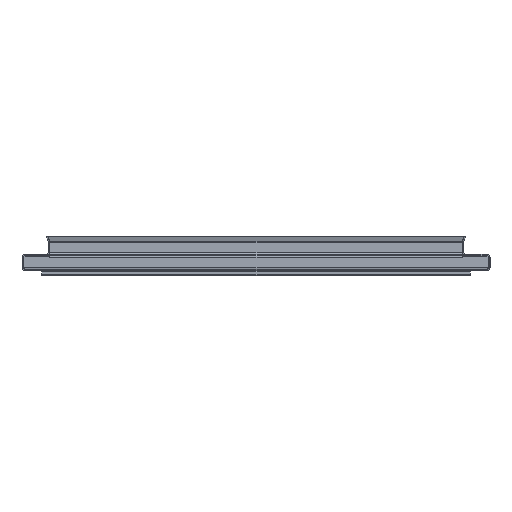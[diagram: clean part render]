
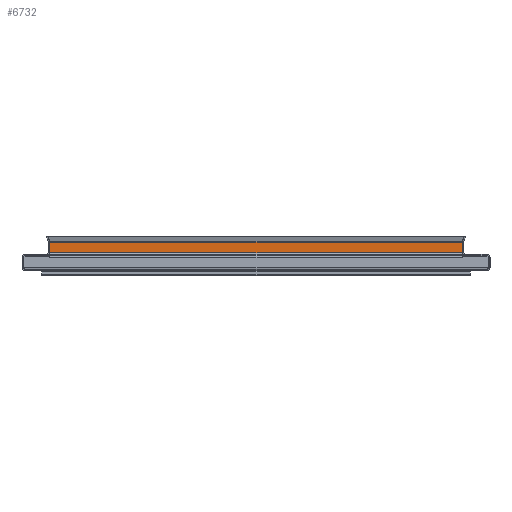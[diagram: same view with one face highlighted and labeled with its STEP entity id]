
A CAD part, left-side view. The second image highlights one B-rep face of the part: STEP entity #6732.
In plain terms, the highlighted planar face has unit normal (-1, 0, 0).
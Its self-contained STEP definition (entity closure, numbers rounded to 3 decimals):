
#17 = DIRECTION ( 'NONE',  ( -1., 0., 0. ) ) ;
#99 = ORIENTED_EDGE ( 'NONE', *, *, #12218, .F. ) ;
#387 = ORIENTED_EDGE ( 'NONE', *, *, #12524, .F. ) ;
#521 = FACE_OUTER_BOUND ( 'NONE', #10241, .T. ) ;
#826 = ORIENTED_EDGE ( 'NONE', *, *, #5574, .F. ) ;
#835 = LINE ( 'NONE', #8951, #6008 ) ;
#1542 = LINE ( 'NONE', #12094, #3788 ) ;
#1627 = CARTESIAN_POINT ( 'NONE',  ( -978.082, -266.224, 23.296 ) ) ;
#1958 = VERTEX_POINT ( 'NONE', #1627 ) ;
#2511 = CARTESIAN_POINT ( 'NONE',  ( -978.082, 266.224, 23.296 ) ) ;
#3103 = DIRECTION ( 'NONE',  ( 0., 1., 0. ) ) ;
#3563 = VECTOR ( 'NONE', #8521, 1000. ) ;
#3598 = VECTOR ( 'NONE', #6269, 1000. ) ;
#3788 = VECTOR ( 'NONE', #11104, 1000. ) ;
#5574 = EDGE_CURVE ( 'NONE', #12353, #10487, #1542, .T. ) ;
#5828 = CARTESIAN_POINT ( 'NONE',  ( -978.082, -266.224, 37.407 ) ) ;
#6000 = CARTESIAN_POINT ( 'NONE',  ( -978.082, -266.224, 37.085 ) ) ;
#6008 = VECTOR ( 'NONE', #3103, 1000. ) ;
#6269 = DIRECTION ( 'NONE',  ( 0., 0., -1. ) ) ;
#6336 = VERTEX_POINT ( 'NONE', #2511 ) ;
#6732 = ADVANCED_FACE ( 'NONE', ( #521 ), #10611, .T. ) ;
#6805 = DIRECTION ( 'NONE',  ( 0., 0., 1. ) ) ;
#7462 = AXIS2_PLACEMENT_3D ( 'NONE', #5828, #17, #6805 ) ;
#8391 = ORIENTED_EDGE ( 'NONE', *, *, #10821, .F. ) ;
#8486 = LINE ( 'NONE', #11087, #3598 ) ;
#8521 = DIRECTION ( 'NONE',  ( 0., 0., 1. ) ) ;
#8774 = LINE ( 'NONE', #12403, #3563 ) ;
#8951 = CARTESIAN_POINT ( 'NONE',  ( -978.082, -266.224, 23.296 ) ) ;
#10241 = EDGE_LOOP ( 'NONE', ( #8391, #826, #99, #387 ) ) ;
#10487 = VERTEX_POINT ( 'NONE', #6000 ) ;
#10611 = PLANE ( 'NONE',  #7462 ) ;
#10821 = EDGE_CURVE ( 'NONE', #10487, #1958, #8486, .T. ) ;
#11087 = CARTESIAN_POINT ( 'NONE',  ( -978.082, -266.224, 21.264 ) ) ;
#11104 = DIRECTION ( 'NONE',  ( 0., -1., 0. ) ) ;
#12094 = CARTESIAN_POINT ( 'NONE',  ( -978.082, 266.322, 37.085 ) ) ;
#12218 = EDGE_CURVE ( 'NONE', #6336, #12353, #8774, .T. ) ;
#12353 = VERTEX_POINT ( 'NONE', #12574 ) ;
#12403 = CARTESIAN_POINT ( 'NONE',  ( -978.082, 266.224, 37.407 ) ) ;
#12524 = EDGE_CURVE ( 'NONE', #1958, #6336, #835, .T. ) ;
#12574 = CARTESIAN_POINT ( 'NONE',  ( -978.082, 266.224, 37.085 ) ) ;
